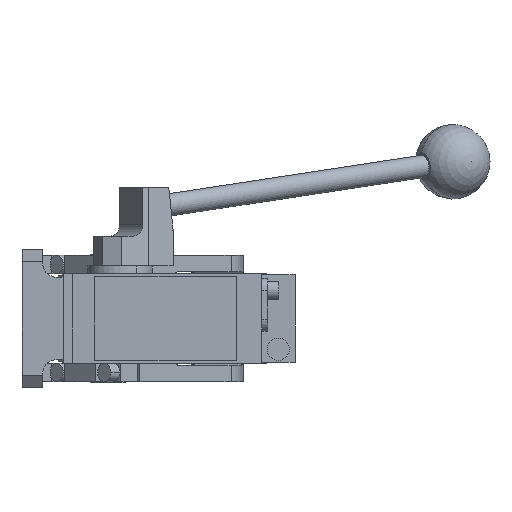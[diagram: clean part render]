
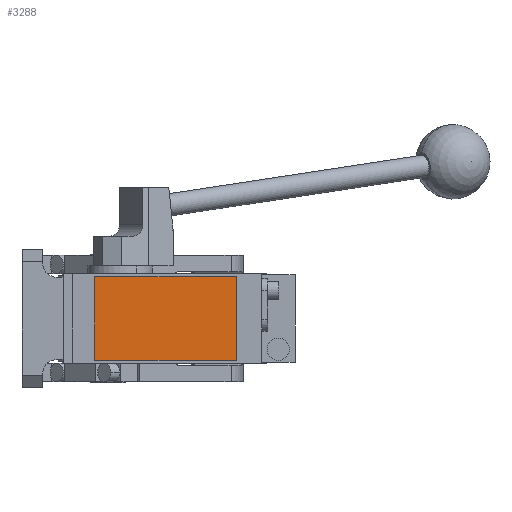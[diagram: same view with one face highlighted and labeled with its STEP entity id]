
A CAD part, front view. The second image highlights one B-rep face of the part: STEP entity #3288.
In plain terms, the highlighted planar face has unit normal (0, -1, 0).
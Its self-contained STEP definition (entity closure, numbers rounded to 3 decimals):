
#35 = ORIENTED_EDGE ( 'NONE', *, *, #8381, .T. ) ;
#115 = EDGE_CURVE ( 'NONE', #602, #9087, #2293, .T. ) ;
#602 = VERTEX_POINT ( 'NONE', #4510 ) ;
#766 = VERTEX_POINT ( 'NONE', #11784 ) ;
#890 = DIRECTION ( 'NONE',  ( 0., 0., 1. ) ) ;
#1696 = DIRECTION ( 'NONE',  ( 1., 0., 0. ) ) ;
#2293 = LINE ( 'NONE', #8316, #8702 ) ;
#2350 = VECTOR ( 'NONE', #14941, 1000. ) ;
#3085 = VECTOR ( 'NONE', #1696, 1000. ) ;
#3288 = ADVANCED_FACE ( 'NONE', ( #6202 ), #4587, .T. ) ;
#3377 = DIRECTION ( 'NONE',  ( 0., -1., 0. ) ) ;
#3412 = EDGE_CURVE ( 'NONE', #766, #7927, #11194, .T. ) ;
#4510 = CARTESIAN_POINT ( 'NONE',  ( 69., -280.5, -22.5 ) ) ;
#4587 = PLANE ( 'NONE',  #14087 ) ;
#5450 = EDGE_LOOP ( 'NONE', ( #6070, #11866, #8334, #35 ) ) ;
#6070 = ORIENTED_EDGE ( 'NONE', *, *, #3412, .T. ) ;
#6202 = FACE_OUTER_BOUND ( 'NONE', #5450, .T. ) ;
#7280 = CARTESIAN_POINT ( 'NONE',  ( 0., -280.5, 0. ) ) ;
#7897 = LINE ( 'NONE', #9201, #3085 ) ;
#7927 = VERTEX_POINT ( 'NONE', #11340 ) ;
#8316 = CARTESIAN_POINT ( 'NONE',  ( 69., -280.5, 22.5 ) ) ;
#8334 = ORIENTED_EDGE ( 'NONE', *, *, #115, .T. ) ;
#8381 = EDGE_CURVE ( 'NONE', #9087, #766, #16128, .T. ) ;
#8702 = VECTOR ( 'NONE', #890, 1000. ) ;
#9087 = VERTEX_POINT ( 'NONE', #14273 ) ;
#9201 = CARTESIAN_POINT ( 'NONE',  ( -7., -280.5, -22.5 ) ) ;
#9562 = DIRECTION ( 'NONE',  ( 0., 0., -1. ) ) ;
#9748 = DIRECTION ( 'NONE',  ( -1., 0., 0. ) ) ;
#11194 = LINE ( 'NONE', #13819, #2350 ) ;
#11340 = CARTESIAN_POINT ( 'NONE',  ( -7., -280.5, -22.5 ) ) ;
#11782 = EDGE_CURVE ( 'NONE', #7927, #602, #7897, .T. ) ;
#11784 = CARTESIAN_POINT ( 'NONE',  ( -7., -280.5, 22.5 ) ) ;
#11866 = ORIENTED_EDGE ( 'NONE', *, *, #11782, .T. ) ;
#13613 = CARTESIAN_POINT ( 'NONE',  ( -7., -280.5, 22.5 ) ) ;
#13819 = CARTESIAN_POINT ( 'NONE',  ( -7., -280.5, 22.5 ) ) ;
#14087 = AXIS2_PLACEMENT_3D ( 'NONE', #7280, #3377, #9562 ) ;
#14273 = CARTESIAN_POINT ( 'NONE',  ( 69., -280.5, 22.5 ) ) ;
#14941 = DIRECTION ( 'NONE',  ( 0., 0., -1. ) ) ;
#15578 = VECTOR ( 'NONE', #9748, 1000. ) ;
#16128 = LINE ( 'NONE', #13613, #15578 ) ;
